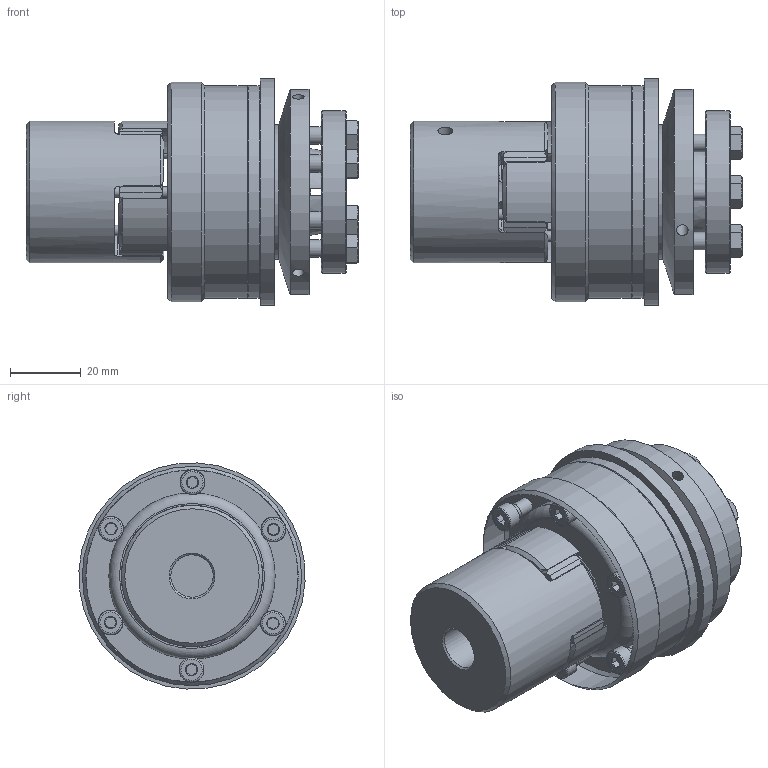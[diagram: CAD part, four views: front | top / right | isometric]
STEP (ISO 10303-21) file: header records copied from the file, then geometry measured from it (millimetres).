
FILE_DESCRIPTION( ( 'Unknown' ), '1' );
FILE_NAME( 'C:/Users/skarpstein/Desktop/Korrigierte 3D Modelle/KBK-E-PA/KBK EPA-19.stp', 'Unknown', ( 'Unknown' ), ( 'Unknown' ), 'PSStep 16.0.42', 'Unknown', ' ' );
FILE_SCHEMA( ( 'AUTOMOTIVE_DESIGN { 1 0 10303 214 1 1 1 1 }' ) );
Length unit declared in the file: millimetre
Products named in the file (29): ball_bearing_-_6005_0_01_1; ball_bearing_-_6005_0_02_0; ball_bearing_-_6005_0_03_0; din_en_24017_m5x16_0; Flansch L30_0; Druckring 30_0; L-A-30 Grundkörper_0; ISO EN DIN 4762_M4x16_0; a_25_0; Elastomerflansch 19_0; Zahnkranz_19_0; Stellring 30_0; Assem2; Druckring L-A-30_0; Assem1; KBE 1 - 19_Nabe
Assembly tree (38 placements, depth 4):
  Assem1
    KBE 1 - 19_Nabe
    Stellring 30_0
      Stellring 30_0
    Druckring 30_0
      Druckring 30_0
    Flansch L30_0
      Flansch L30_0
    a_25_0
      a_25_0
    Elastomerflansch 19_0
      Elastomerflansch 19_0
    Zahnkranz_19_0
      Zahnkranz_19_0
    ISO EN DIN 4762_M4x16_0  x6
      ISO EN DIN 4762_M4x16_0
    L-A-30 Grundkörper_0
      L-A-30 Grundkörper_0
    Druckring L-A-30_0
      Druckring L-A-30_0
    din_en_24017_m5x16_0  x6
      din_en_24017_m5x16_0
    Assem2
      ball_bearing_-_6005_0_01_1
        ball_bearing_-_6005_0_01_1
      ball_bearing_-_6005_0_02_0
        ball_bearing_-_6005_0_02_0
      ball_bearing_-_6005_0_03_0
        ball_bearing_-_6005_0_03_0
Bounding box: 93.85 x 63.92 x 63.92 mm (x, y, z)
Volume: 151944.2 mm3; surface area: 73981.6 mm2
Topology: 24 solids, 24 shells, 586 faces, 1246 edges, 775 vertices
Faces by surface type: plane 233, cone 162, cylinder 154, torus 37
Full cylindrical faces by diameter (mm): 2 x2, 3 x6, 3.242 x9, 3.5 x6, 4 x12, 4.134 x6, 4.2 x7, 5 x6, 5.5 x6, 6.88 x6, 7 x12, 8 x1, 12 x2, 18 x2, 23.9 x1, 24.7 x1, 25 x3, 32 x2, 34 x1, 38 x2, 40 x2, 40.3 x2, 46 x1, 47 x3, 52 x1, 58 x1, 60 x2, 62 x1, 64 x1
Entity records: 13194 total; most frequent: CARTESIAN_POINT 2327, DIRECTION 1734, ORIENTED_EDGE 1292, AXIS2_PLACEMENT_3D 794, EDGE_CURVE 646, EDGE_LOOP 555, VERTEX_POINT 475, FACE_OUTER_BOUND 442
